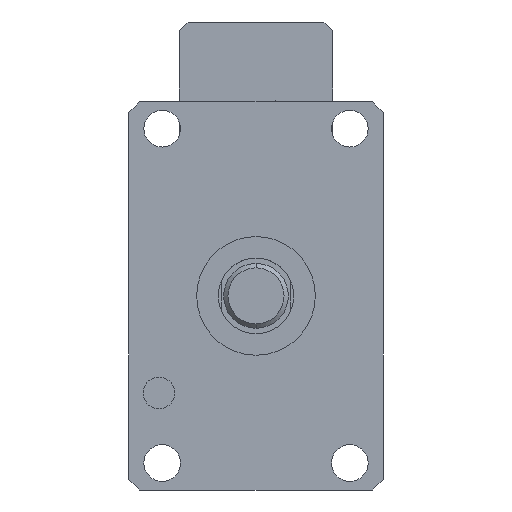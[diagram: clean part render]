
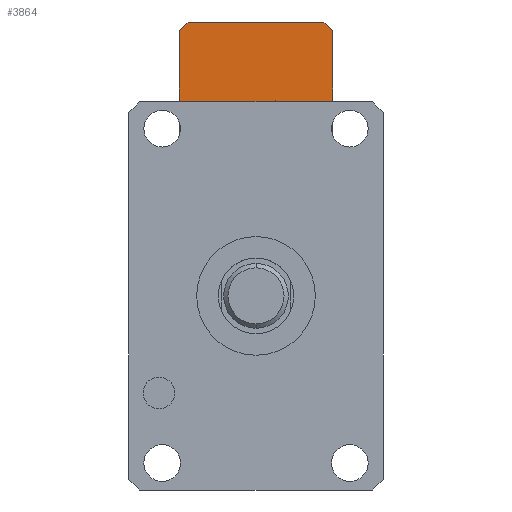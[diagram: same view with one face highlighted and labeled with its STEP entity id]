
A CAD part, front view. The second image highlights one B-rep face of the part: STEP entity #3864.
In plain terms, the highlighted planar face has unit normal (0, -1, 0).
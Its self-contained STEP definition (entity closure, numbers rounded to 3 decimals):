
#218 = FACE_OUTER_BOUND ( 'NONE', #6652, .T. ) ;
#231 = ORIENTED_EDGE ( 'NONE', *, *, #1850, .T. ) ;
#285 = EDGE_CURVE ( 'NONE', #10007, #5032, #1306, .T. ) ;
#437 = CARTESIAN_POINT ( 'NONE',  ( 9., 190., 74.597 ) ) ;
#463 = EDGE_CURVE ( 'NONE', #3946, #9798, #5133, .T. ) ;
#504 = DIRECTION ( 'NONE',  ( 0.707, 0., 0.707 ) ) ;
#969 = DIRECTION ( 'NONE',  ( 1., 0., 0. ) ) ;
#984 = LINE ( 'NONE', #9323, #6158 ) ;
#1001 = VECTOR ( 'NONE', #8185, 1000. ) ;
#1187 = ORIENTED_EDGE ( 'NONE', *, *, #10776, .F. ) ;
#1225 = EDGE_CURVE ( 'NONE', #12403, #11995, #8171, .T. ) ;
#1306 = LINE ( 'NONE', #2367, #1001 ) ;
#1472 = DIRECTION ( 'NONE',  ( 0., -1., 0. ) ) ;
#1607 = VECTOR ( 'NONE', #7670, 1000. ) ;
#1757 = EDGE_CURVE ( 'NONE', #3946, #12409, #7541, .T. ) ;
#1801 = CARTESIAN_POINT ( 'NONE',  ( -31.5, 190., 56. ) ) ;
#1850 = EDGE_CURVE ( 'NONE', #12403, #12409, #7243, .T. ) ;
#2035 = CARTESIAN_POINT ( 'NONE',  ( 35.5, 190., 60. ) ) ;
#2136 = AXIS2_PLACEMENT_3D ( 'NONE', #7306, #1472, #8277 ) ;
#2232 = DIRECTION ( 'NONE',  ( 0., 0., -1. ) ) ;
#2367 = CARTESIAN_POINT ( 'NONE',  ( 35.5, 190., 56. ) ) ;
#2575 = ORIENTED_EDGE ( 'NONE', *, *, #463, .T. ) ;
#2576 = DIRECTION ( 'NONE',  ( 0.707, 0., -0.707 ) ) ;
#2689 = VECTOR ( 'NONE', #969, 1000. ) ;
#2775 = ORIENTED_EDGE ( 'NONE', *, *, #6876, .F. ) ;
#2966 = ORIENTED_EDGE ( 'NONE', *, *, #1225, .F. ) ;
#2992 = CARTESIAN_POINT ( 'NONE',  ( 31.5, 190., 127. ) ) ;
#3705 = CIRCLE ( 'NONE', #2136, 7.903 ) ;
#3864 = ADVANCED_FACE ( 'NONE', ( #7989, #218 ), #10830, .F. ) ;
#3904 = CIRCLE ( 'NONE', #8208, 7.903 ) ;
#3946 = VERTEX_POINT ( 'NONE', #12059 ) ;
#4046 = CARTESIAN_POINT ( 'NONE',  ( 9., 190., 82.5 ) ) ;
#4052 = EDGE_CURVE ( 'NONE', #7636, #10007, #984, .T. ) ;
#4465 = CARTESIAN_POINT ( 'NONE',  ( -31.5, 190., 127. ) ) ;
#4996 = CARTESIAN_POINT ( 'NONE',  ( 9., 190., 90.403 ) ) ;
#5024 = CARTESIAN_POINT ( 'NONE',  ( 35.5, 190., 127. ) ) ;
#5026 = DIRECTION ( 'NONE',  ( 0., 0., -1. ) ) ;
#5032 = VERTEX_POINT ( 'NONE', #12537 ) ;
#5133 = LINE ( 'NONE', #4465, #9682 ) ;
#5319 = CARTESIAN_POINT ( 'NONE',  ( 35.5, 190., 60. ) ) ;
#5486 = ORIENTED_EDGE ( 'NONE', *, *, #10398, .T. ) ;
#5620 = ORIENTED_EDGE ( 'NONE', *, *, #4052, .T. ) ;
#5706 = VERTEX_POINT ( 'NONE', #437 ) ;
#5900 = ORIENTED_EDGE ( 'NONE', *, *, #6837, .T. ) ;
#5999 = DIRECTION ( 'NONE',  ( 0., 0., 1. ) ) ;
#6158 = VECTOR ( 'NONE', #2576, 1000. ) ;
#6652 = EDGE_LOOP ( 'NONE', ( #9015, #5486, #2966, #231, #7778, #2575, #5900, #5620 ) ) ;
#6837 = EDGE_CURVE ( 'NONE', #9798, #7636, #9671, .T. ) ;
#6876 = EDGE_CURVE ( 'NONE', #7788, #5706, #3904, .T. ) ;
#7243 = LINE ( 'NONE', #2992, #9495 ) ;
#7306 = CARTESIAN_POINT ( 'NONE',  ( 9., 190., 82.5 ) ) ;
#7368 = DIRECTION ( 'NONE',  ( -0.707, 0., -0.707 ) ) ;
#7510 = AXIS2_PLACEMENT_3D ( 'NONE', #5024, #11807, #5999 ) ;
#7541 = LINE ( 'NONE', #8739, #2689 ) ;
#7559 = VECTOR ( 'NONE', #2232, 1000. ) ;
#7636 = VERTEX_POINT ( 'NONE', #7995 ) ;
#7670 = DIRECTION ( 'NONE',  ( 0., 0., -1. ) ) ;
#7778 = ORIENTED_EDGE ( 'NONE', *, *, #1757, .F. ) ;
#7788 = VERTEX_POINT ( 'NONE', #4996 ) ;
#7947 = VECTOR ( 'NONE', #504, 1000. ) ;
#7989 = FACE_BOUND ( 'NONE', #12476, .T. ) ;
#7995 = CARTESIAN_POINT ( 'NONE',  ( -35.5, 190., 60. ) ) ;
#8171 = LINE ( 'NONE', #9011, #7559 ) ;
#8185 = DIRECTION ( 'NONE',  ( 1., 0., 0. ) ) ;
#8208 = AXIS2_PLACEMENT_3D ( 'NONE', #4046, #10832, #5026 ) ;
#8277 = DIRECTION ( 'NONE',  ( 0., 0., -1. ) ) ;
#8739 = CARTESIAN_POINT ( 'NONE',  ( 35.5, 190., 127. ) ) ;
#8987 = CARTESIAN_POINT ( 'NONE',  ( -35.5, 190., 123. ) ) ;
#9011 = CARTESIAN_POINT ( 'NONE',  ( 35.5, 190., 127. ) ) ;
#9015 = ORIENTED_EDGE ( 'NONE', *, *, #285, .T. ) ;
#9323 = CARTESIAN_POINT ( 'NONE',  ( -35.5, 190., 60. ) ) ;
#9495 = VECTOR ( 'NONE', #9759, 1000. ) ;
#9671 = LINE ( 'NONE', #10537, #1607 ) ;
#9682 = VECTOR ( 'NONE', #7368, 1000. ) ;
#9759 = DIRECTION ( 'NONE',  ( -0.707, 0., 0.707 ) ) ;
#9798 = VERTEX_POINT ( 'NONE', #8987 ) ;
#10007 = VERTEX_POINT ( 'NONE', #1801 ) ;
#10398 = EDGE_CURVE ( 'NONE', #5032, #11995, #10515, .T. ) ;
#10504 = CARTESIAN_POINT ( 'NONE',  ( 35.5, 190., 123. ) ) ;
#10515 = LINE ( 'NONE', #5319, #7947 ) ;
#10537 = CARTESIAN_POINT ( 'NONE',  ( -35.5, 190., 127. ) ) ;
#10776 = EDGE_CURVE ( 'NONE', #5706, #7788, #3705, .T. ) ;
#10830 = PLANE ( 'NONE',  #7510 ) ;
#10832 = DIRECTION ( 'NONE',  ( 0., -1., 0. ) ) ;
#11484 = CARTESIAN_POINT ( 'NONE',  ( 31.5, 190., 127. ) ) ;
#11807 = DIRECTION ( 'NONE',  ( 0., 1., 0. ) ) ;
#11995 = VERTEX_POINT ( 'NONE', #2035 ) ;
#12059 = CARTESIAN_POINT ( 'NONE',  ( -31.5, 190., 127. ) ) ;
#12403 = VERTEX_POINT ( 'NONE', #10504 ) ;
#12409 = VERTEX_POINT ( 'NONE', #11484 ) ;
#12476 = EDGE_LOOP ( 'NONE', ( #1187, #2775 ) ) ;
#12537 = CARTESIAN_POINT ( 'NONE',  ( 31.5, 190., 56. ) ) ;
